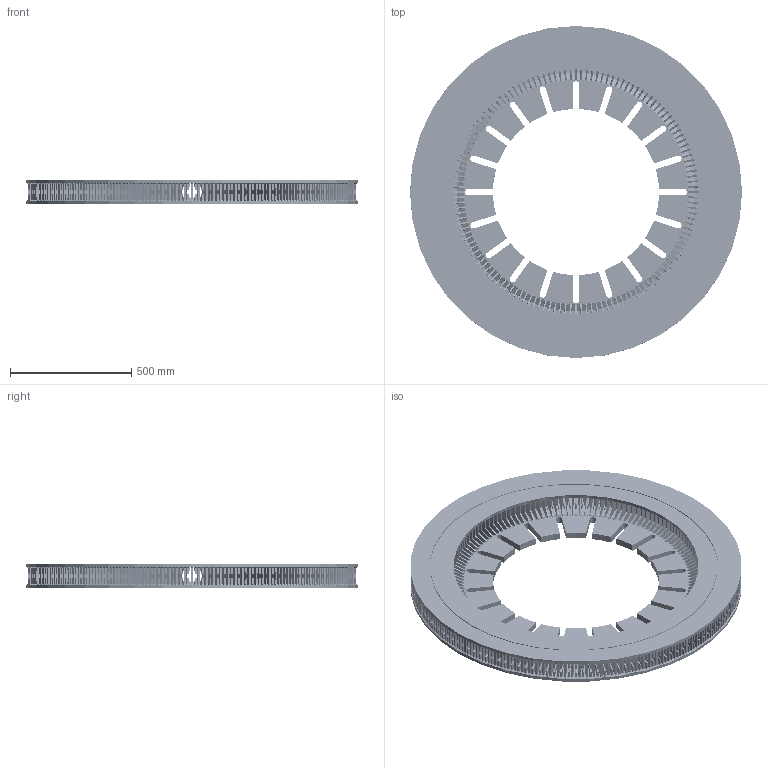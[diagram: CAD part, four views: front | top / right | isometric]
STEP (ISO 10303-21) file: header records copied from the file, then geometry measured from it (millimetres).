
FILE_DESCRIPTION (( 'STEP AP214' ), '1' );
FILE_NAME ('4-07-54.STEP', '2019-09-12T23:28:48', ( '' ), ( '' ), 'SwSTEP 2.0', 'SolidWorks 2019', '' );
FILE_SCHEMA (( 'AUTOMOTIVE_DESIGN' ));
Products named in the file (1): 4-07-54
Bounding box: 1371.6 x 1371.6 x 101.6 mm (x, y, z)
Volume: 47451339.3 mm3; surface area: 9052114.2 mm2
Topology: 1 solids, 1 shells, 16640 faces, 40787 edges, 24436 vertices
Faces by surface type: cylinder 6504, plane 3969, bspline 2520, cone 1407, sphere 1400, torus 840
Entity records: 521059 total; most frequent: CARTESIAN_POINT 165466, ORIENTED_EDGE 81574, DIRECTION 68881, EDGE_CURVE 40787, AXIS2_PLACEMENT_3D 26995, VERTEX_POINT 24436, EDGE_LOOP 17209, FACE_OUTER_BOUND 16640
